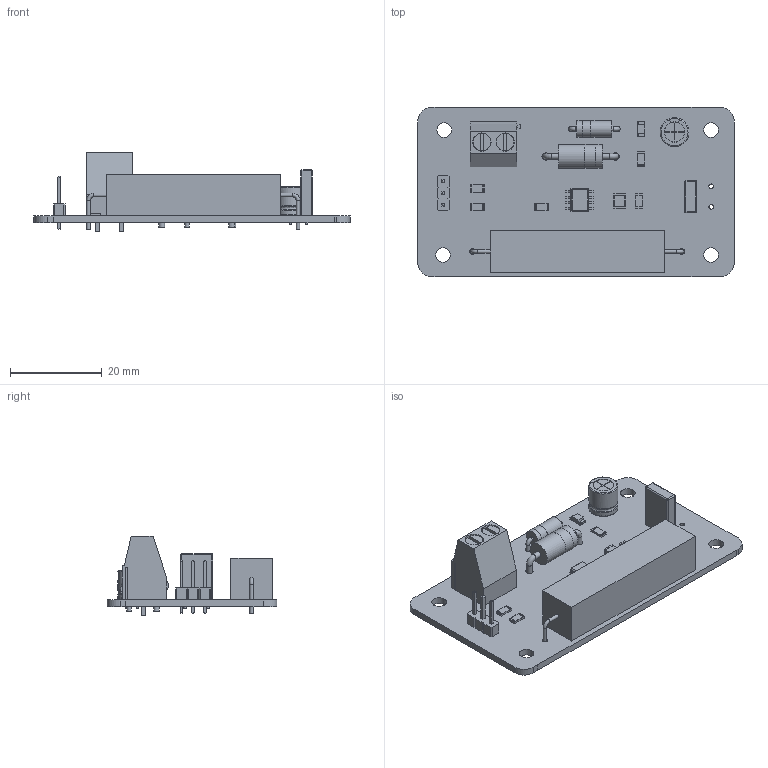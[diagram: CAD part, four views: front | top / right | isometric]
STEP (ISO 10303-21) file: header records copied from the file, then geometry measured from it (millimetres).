
FILE_DESCRIPTION(('KiCad electronic assembly'),'2;1');
FILE_NAME('HTMAA_Week5.step','2026-10-14T12:19:27',('Pcbnew'),('Kicad'), 'Open CASCADE STEP processor 7.9','KiCad to STEP converter','Unknown' );
FILE_SCHEMA(('AUTOMOTIVE_DESIGN { 1 0 10303 214 1 1 1 1 }'));
Length unit declared in the file: millimetre
Products named in the file (29): HTMAA_Week5 1; R_1206_3216Metric; CP_Radial_D6.3mm_P2.50mm; CP_Radial_D63mm_P250mm; DRV8871DDA; DDA0008E_ASM; BODY-SO; LEAD-SO; THERMALPAD-SO; LED_1206_3216Metric; D_DO-15_P10.16mm_Horizontal; R_Axial_Power_L38.0mm_W9.0mm_P45.72mm; R_Axial_Power_L380mm_W90mm_P4572mm; C_1210_3225Metric; C_1206_3216Metric; C_Rect_L7.0mm_W2.5mm_P5.00mm; C_Rect_L70mm_W25mm_P500mm; D_DO-201AD_P15.24mm_Horizontal; TerminalBlock_Phoenix_MKDS-1,5-2-5.08_1x02_P5.08mm_Horizontal; PinHeader_1x03_P2.54mm_Vertical; PinHeader_1x03_P254mm_Vertical; HTMAA_Week5-unsaved-export-ihJSdm_PCB
Assembly tree (38 placements, depth 4):
  HTMAA_Week5 1
    R_1206_3216Metric  x4
      R_1206_3216Metric
    CP_Radial_D6.3mm_P2.50mm
      CP_Radial_D63mm_P250mm
    DRV8871DDA
      DDA0008E_ASM
        BODY-SO
        LEAD-SO  x8
        THERMALPAD-SO
    LED_1206_3216Metric
      LED_1206_3216Metric
    D_DO-15_P10.16mm_Horizontal
      D_DO-15_P10.16mm_Horizontal
    R_Axial_Power_L38.0mm_W9.0mm_P45.72mm
      R_Axial_Power_L380mm_W90mm_P4572mm
    C_1210_3225Metric
      C_1210_3225Metric
    C_1206_3216Metric
      C_1206_3216Metric
    C_Rect_L7.0mm_W2.5mm_P5.00mm
      C_Rect_L70mm_W25mm_P500mm
    D_DO-201AD_P15.24mm_Horizontal
      D_DO-201AD_P15.24mm_Horizontal
    TerminalBlock_Phoenix_MKDS-1,5-2-5.08_1x02_P5.08mm_Horizontal
      TerminalBlock_Phoenix_MKDS-1,5-2-5.08_1x02_P5.08mm_Horizontal
    PinHeader_1x03_P2.54mm_Vertical
      PinHeader_1x03_P254mm_Vertical
    HTMAA_Week5-unsaved-export-ihJSdm_PCB
Bounding box: 69 x 37 x 17.3 mm (x, y, z)
Volume: 8674.8 mm3; surface area: 9645.7 mm2
Topology: 25 solids, 26 shells, 703 faces, 1712 edges, 1088 vertices
Faces by surface type: plane 476, cylinder 189, sphere 14, bspline 12, torus 8, revolution 4
Full cylindrical faces by diameter (mm): 0.5 x4, 0.8 x8, 0.9 x4, 1 x5, 1.2 x4, 1.3 x6, 1.6 x2, 3.2 x4, 3.6 x2, 3.62 x1, 3.8 x2, 4 x2, 5.2 x2, 5.22 x1
Entity records: 19739 total; most frequent: CARTESIAN_POINT 3580, DIRECTION 2621, ORIENTED_EDGE 2504, EDGE_CURVE 1252, LINE 883, VECTOR 883, AXIS2_PLACEMENT_3D 867, VERTEX_POINT 788
